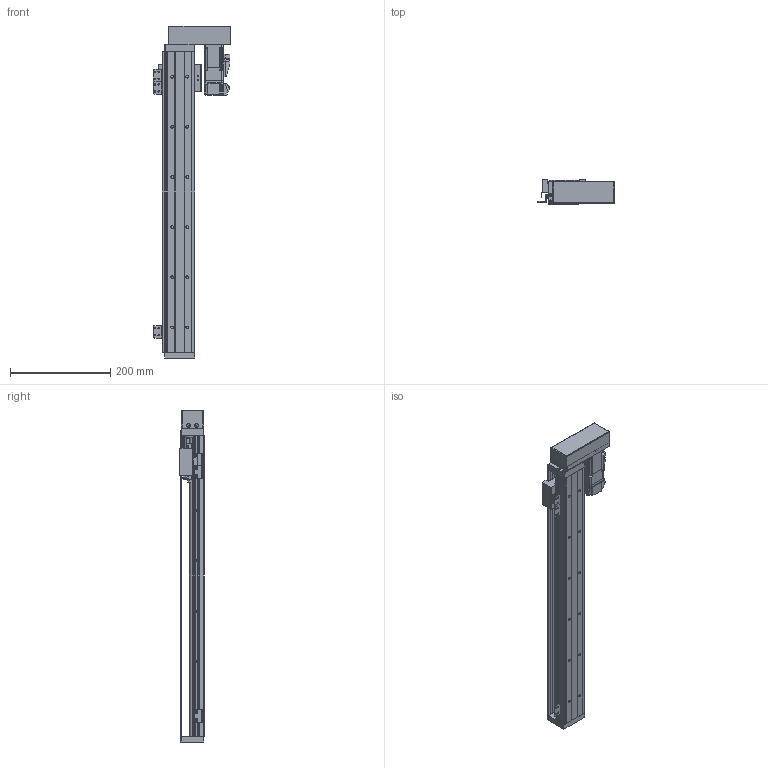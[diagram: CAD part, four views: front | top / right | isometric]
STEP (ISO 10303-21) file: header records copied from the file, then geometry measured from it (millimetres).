
FILE_DESCRIPTION (( 'STEP AP203' ), '1' );
FILE_NAME ('KH60D10C-600A1-H2LCS0.STEP', '2022-06-08T06:19:59', ( '' ), ( '' ), 'SwSTEP 2.0', 'SolidWorks 2016', '' );
FILE_SCHEMA (( 'CONFIG_CONTROL_DESIGN' ));
Length unit declared in the file: millimetre
Products named in the file (66): 内六角圆柱头螺钉M3×10; 囀鞠褒す埴芛蹟隊M3℅5; 蛌諉啣; 綴釱; KK60-08-01; 内六角圆柱头螺钉M3×18; KK60-04-07; 晦埴芛M3X6蹟隊; 鞠褒蹟譫M3; KH60-500; 216々湍; 囀鞠褒麥芛蹟隊M3x5; KK60-02-01-H0; KK60-02-04; KK60-02-02; KK60-02-01-H0_KK60-02-01-H0&H1; KH60D10C-600A1-H2LCS0; KH60-02-0000-L; KK60-02-03; B-KK60-A1-F0C; KK60-01-02-XXXX; 錨璃2; 侂狟萇儂P10B; KH86-08-(SX674); KK60-01-02-XXXX_KK60-01-02-150
Assembly tree (38 placements, depth 3):
  内六角圆柱头螺钉M3×10
  綴釱
  囀鞠褒す埴芛蹟隊M3℅5
  囀鞠褒す埴芛蹟隊M3℅5
  KK60-08-01
Bounding box: 153.7 x 48 x 662 mm (x, y, z)
Volume: 958847.9 mm3; surface area: 375485.2 mm2
Topology: 45 solids, 45 shells, 2531 faces, 6568 edges, 4177 vertices
Faces by surface type: plane 1140, cylinder 686, cone 343, bspline 280, torus 70, sphere 12
Entity records: 70044 total; most frequent: CARTESIAN_POINT 16266, ORIENTED_EDGE 10348, DIRECTION 9159, EDGE_CURVE 5174, VERTEX_POINT 3387, VECTOR 3147, LINE 3147, AXIS2_PLACEMENT_3D 3006
